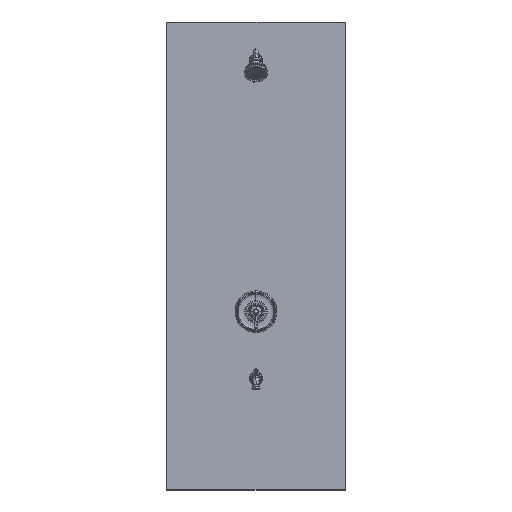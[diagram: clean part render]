
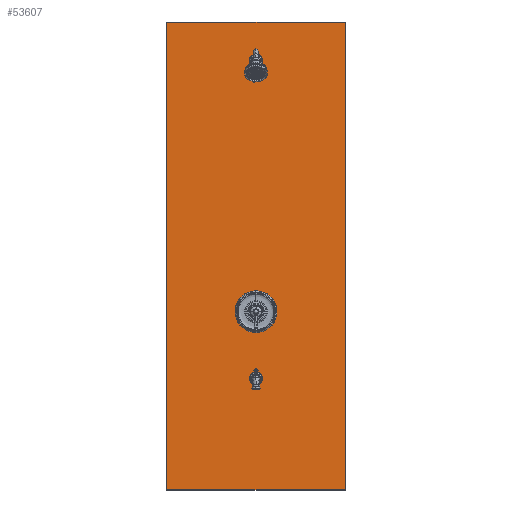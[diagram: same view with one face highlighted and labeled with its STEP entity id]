
A CAD part, top view. The second image highlights one B-rep face of the part: STEP entity #53607.
In plain terms, the highlighted planar face has unit normal (0, 0, 1).
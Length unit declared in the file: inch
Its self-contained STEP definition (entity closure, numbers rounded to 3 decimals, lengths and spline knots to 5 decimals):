
#129 = VERTEX_POINT ( 'NONE', #50401 ) ;
#168 = EDGE_CURVE ( 'NONE', #50785, #21098, #11053, .T. ) ;
#2030 = VERTEX_POINT ( 'NONE', #5770 ) ;
#2454 = ORIENTED_EDGE ( 'NONE', *, *, #52530, .T. ) ;
#2779 = ORIENTED_EDGE ( 'NONE', *, *, #19526, .F. ) ;
#2931 = EDGE_LOOP ( 'NONE', ( #60993, #15935, #2454, #18724 ) ) ;
#5663 = CARTESIAN_POINT ( 'NONE',  ( 0., 45., 0. ) ) ;
#5770 = CARTESIAN_POINT ( 'NONE',  ( -16., -32., 0. ) ) ;
#5968 = LINE ( 'NONE', #58257, #56618 ) ;
#6557 = AXIS2_PLACEMENT_3D ( 'NONE', #22028, #17332, #30818 ) ;
#8054 = AXIS2_PLACEMENT_3D ( 'NONE', #40373, #45692, #25678 ) ;
#8449 = EDGE_CURVE ( 'NONE', #34180, #27668, #60372, .T. ) ;
#9761 = CARTESIAN_POINT ( 'NONE',  ( 0., 0., 0. ) ) ;
#9917 = CARTESIAN_POINT ( 'NONE',  ( -1.875, 0., 0. ) ) ;
#9935 = VECTOR ( 'NONE', #50437, 39.37008 ) ;
#10129 = FACE_BOUND ( 'NONE', #47817, .T. ) ;
#10439 = FACE_BOUND ( 'NONE', #49012, .T. ) ;
#11053 = CIRCLE ( 'NONE', #8054, 0.75 ) ;
#11407 = EDGE_CURVE ( 'NONE', #60608, #15030, #41260, .T. ) ;
#12251 = EDGE_CURVE ( 'NONE', #2030, #31021, #32013, .T. ) ;
#13852 = CARTESIAN_POINT ( 'NONE',  ( -0.75, -12., 0. ) ) ;
#15030 = VERTEX_POINT ( 'NONE', #24450 ) ;
#15170 = EDGE_CURVE ( 'NONE', #129, #2030, #5968, .T. ) ;
#15372 = AXIS2_PLACEMENT_3D ( 'NONE', #5663, #57644, #43537 ) ;
#15423 = AXIS2_PLACEMENT_3D ( 'NONE', #33646, #53036, #38004 ) ;
#15935 = ORIENTED_EDGE ( 'NONE', *, *, #12251, .T. ) ;
#17097 = DIRECTION ( 'NONE',  ( 0., -1., 0. ) ) ;
#17332 = DIRECTION ( 'NONE',  ( 0., 0., 1. ) ) ;
#17747 = DIRECTION ( 'NONE',  ( 1., 0., 0. ) ) ;
#18724 = ORIENTED_EDGE ( 'NONE', *, *, #61861, .T. ) ;
#19017 = CARTESIAN_POINT ( 'NONE',  ( 0.75, -12., 0. ) ) ;
#19526 = EDGE_CURVE ( 'NONE', #21098, #50785, #49313, .T. ) ;
#21098 = VERTEX_POINT ( 'NONE', #25222 ) ;
#21936 = DIRECTION ( 'NONE',  ( 1., 0., 0. ) ) ;
#22028 = CARTESIAN_POINT ( 'NONE',  ( 0., 0., 0. ) ) ;
#23879 = CARTESIAN_POINT ( 'NONE',  ( -0.75, 45., 0. ) ) ;
#24058 = LINE ( 'NONE', #56313, #26341 ) ;
#24450 = CARTESIAN_POINT ( 'NONE',  ( 1.875, 0., 0. ) ) ;
#24452 = ORIENTED_EDGE ( 'NONE', *, *, #8449, .F. ) ;
#24540 = PLANE ( 'NONE',  #15423 ) ;
#25222 = CARTESIAN_POINT ( 'NONE',  ( 0.75, 45., 0. ) ) ;
#25678 = DIRECTION ( 'NONE',  ( 1., 0., 0. ) ) ;
#26341 = VECTOR ( 'NONE', #32531, 39.37008 ) ;
#26941 = CARTESIAN_POINT ( 'NONE',  ( -16., 52., 0. ) ) ;
#27668 = VERTEX_POINT ( 'NONE', #19017 ) ;
#27884 = EDGE_CURVE ( 'NONE', #27668, #34180, #38425, .T. ) ;
#27937 = CARTESIAN_POINT ( 'NONE',  ( -16., -32., 0. ) ) ;
#28559 = DIRECTION ( 'NONE',  ( 1., 0., 0. ) ) ;
#28630 = FACE_BOUND ( 'NONE', #35639, .T. ) ;
#30818 = DIRECTION ( 'NONE',  ( 1., 0., 0. ) ) ;
#31021 = VERTEX_POINT ( 'NONE', #31342 ) ;
#31342 = CARTESIAN_POINT ( 'NONE',  ( 16., -32., 0. ) ) ;
#31677 = EDGE_CURVE ( 'NONE', #15030, #60608, #33578, .T. ) ;
#32013 = LINE ( 'NONE', #27937, #49650 ) ;
#32531 = DIRECTION ( 'NONE',  ( 0., 1., 0. ) ) ;
#33413 = AXIS2_PLACEMENT_3D ( 'NONE', #41544, #60642, #17747 ) ;
#33578 = CIRCLE ( 'NONE', #6557, 1.875 ) ;
#33646 = CARTESIAN_POINT ( 'NONE',  ( -16., -32., 0. ) ) ;
#34180 = VERTEX_POINT ( 'NONE', #13852 ) ;
#35639 = EDGE_LOOP ( 'NONE', ( #44841, #39840 ) ) ;
#36089 = DIRECTION ( 'NONE',  ( 1., 0., 0. ) ) ;
#37391 = AXIS2_PLACEMENT_3D ( 'NONE', #56360, #60129, #21936 ) ;
#38004 = DIRECTION ( 'NONE',  ( 1., 0., 0. ) ) ;
#38425 = CIRCLE ( 'NONE', #37391, 0.75 ) ;
#38933 = FACE_OUTER_BOUND ( 'NONE', #2931, .T. ) ;
#39840 = ORIENTED_EDGE ( 'NONE', *, *, #11407, .F. ) ;
#40373 = CARTESIAN_POINT ( 'NONE',  ( 0., 45., 0. ) ) ;
#41260 = CIRCLE ( 'NONE', #56229, 1.875 ) ;
#41544 = CARTESIAN_POINT ( 'NONE',  ( 0., -12., 0. ) ) ;
#43537 = DIRECTION ( 'NONE',  ( 1., 0., 0. ) ) ;
#44815 = CARTESIAN_POINT ( 'NONE',  ( 16., 52., 0. ) ) ;
#44841 = ORIENTED_EDGE ( 'NONE', *, *, #31677, .F. ) ;
#45692 = DIRECTION ( 'NONE',  ( 0., 0., 1. ) ) ;
#47817 = EDGE_LOOP ( 'NONE', ( #48212, #24452 ) ) ;
#48212 = ORIENTED_EDGE ( 'NONE', *, *, #27884, .F. ) ;
#49012 = EDGE_LOOP ( 'NONE', ( #2779, #54429 ) ) ;
#49313 = CIRCLE ( 'NONE', #15372, 0.75 ) ;
#49650 = VECTOR ( 'NONE', #36089, 39.37008 ) ;
#50401 = CARTESIAN_POINT ( 'NONE',  ( -16., 52., 0. ) ) ;
#50437 = DIRECTION ( 'NONE',  ( -1., 0., 0. ) ) ;
#50684 = VERTEX_POINT ( 'NONE', #44815 ) ;
#50785 = VERTEX_POINT ( 'NONE', #23879 ) ;
#51678 = LINE ( 'NONE', #26941, #9935 ) ;
#52530 = EDGE_CURVE ( 'NONE', #31021, #50684, #24058, .T. ) ;
#53036 = DIRECTION ( 'NONE',  ( 0., 0., 1. ) ) ;
#53607 = ADVANCED_FACE ( 'NONE', ( #10129, #10439, #28630, #38933 ), #24540, .T. ) ;
#54429 = ORIENTED_EDGE ( 'NONE', *, *, #168, .F. ) ;
#56229 = AXIS2_PLACEMENT_3D ( 'NONE', #9761, #57042, #28559 ) ;
#56313 = CARTESIAN_POINT ( 'NONE',  ( 16., 52., 0. ) ) ;
#56360 = CARTESIAN_POINT ( 'NONE',  ( 0., -12., 0. ) ) ;
#56618 = VECTOR ( 'NONE', #17097, 39.37008 ) ;
#57042 = DIRECTION ( 'NONE',  ( 0., 0., 1. ) ) ;
#57644 = DIRECTION ( 'NONE',  ( 0., 0., 1. ) ) ;
#58257 = CARTESIAN_POINT ( 'NONE',  ( -16., 52., 0. ) ) ;
#60129 = DIRECTION ( 'NONE',  ( 0., 0., 1. ) ) ;
#60372 = CIRCLE ( 'NONE', #33413, 0.75 ) ;
#60608 = VERTEX_POINT ( 'NONE', #9917 ) ;
#60642 = DIRECTION ( 'NONE',  ( 0., 0., 1. ) ) ;
#60993 = ORIENTED_EDGE ( 'NONE', *, *, #15170, .T. ) ;
#61861 = EDGE_CURVE ( 'NONE', #50684, #129, #51678, .T. ) ;
